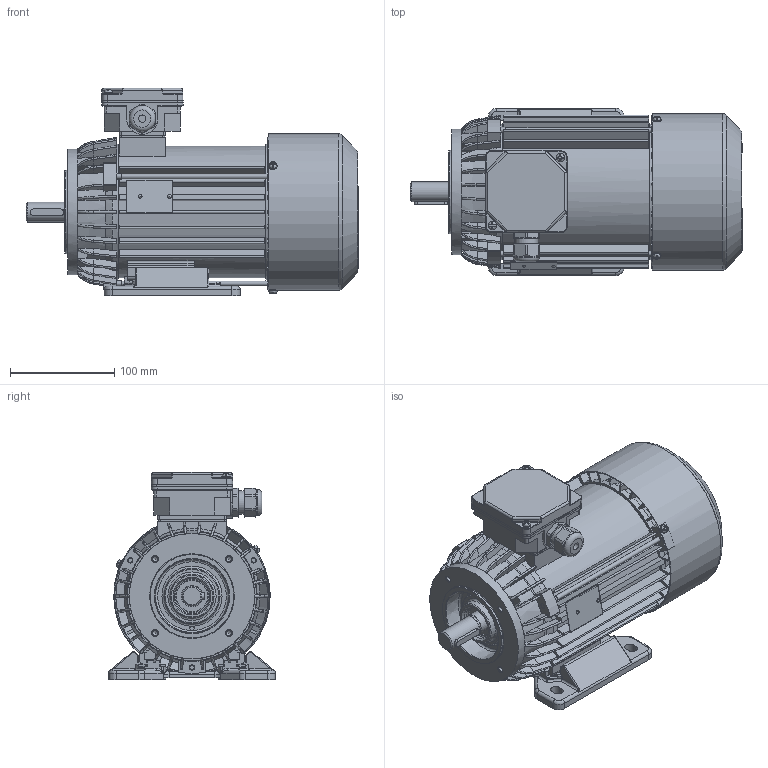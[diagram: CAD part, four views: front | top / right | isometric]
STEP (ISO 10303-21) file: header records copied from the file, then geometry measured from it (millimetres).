
FILE_DESCRIPTION( ( 'Unknown' ), '1' );
FILE_NAME( 'G:/Poczta Tk-1/STP/w.m.80/Sh80/SLh80x-.D2.stp', 'Unknown', ( 'K. Szlosek' ), ( 'BESEL S.A.' ), 'PSStep 17.0.49', 'Unknown', ' ' );
FILE_SCHEMA( ( 'AUTOMOTIVE_DESIGN { 1 0 10303 214 1 1 1 1 }' ) );
Length unit declared in the file: millimetre
Products named in the file (30): skrznka zaciskowa trójfazowa ; K4-2820 Uszczelka nr 2 Sh71,80; Dławnica M20x1,5; K2-0859 Podstawa skrzynki 6-cio zaciskowej; K2-0860 Pokrywka skrzynki zaciskowej; Assem1; K1-1257 Kadłub S(E,M)h80-C i D; Wkręt samogwintujący M4x16; Wkręt samogwintujący M4x10; K4-2320 Uszczelka nr 1 Sh71,80; Wpust A6x6x32; K2-1715 Przewietrznik; Nitokołek A 2x6; Łożysko 6204; Śruba ściągająca E_M5x168; Tabliczka znamionowa 32x44; K3-6857 Tarcza łożyskowa P S(E,M)h80-B,D; K3-2964 Osłona przewietrznika Sh80,90; K3-5645 wał S(E,M)h80-.D; K1-1261 Tarcza kołnierzowa B14_2 w.m. 80; K1-0437 Łapa Sh80-.. 
Assembly tree (45 placements, depth 3):
  Assem1
    K1-1257 Kadłub S(E,M)h80-C i D
    Wkręt samogwintujący M4x16  x2
    Wkręt samogwintujący M4x10  x3
    K4-2320 Uszczelka nr 1 Sh71,80
    Wpust A6x6x32
    K2-1715 Przewietrznik
    Nitokołek A 2x6  x2
    Łożysko 6204  x2
    Łożysko 6204  x2
    Łożysko 6204  x2
    Łożysko 6204  x2
    Łożysko 6204  x2
    Łożysko 6204  x2
    Łożysko 6204  x2
    Łożysko 6204  x2
    Łożysko 6204  x2
    Łożysko 6204  x2
    Śruba ściągająca E_M5x168  x3
    Tabliczka znamionowa 32x44
    K3-6857 Tarcza łożyskowa P S(E,M)h80-B,D
    K3-2964 Osłona przewietrznika Sh80,90
    K3-5645 wał S(E,M)h80-.D
    K1-1261 Tarcza kołnierzowa B14_2 w.m. 80
    K1-0437 Łapa Sh80-.. 
    skrznka zaciskowa trójfazowa 
      K4-2820 Uszczelka nr 2 Sh71,80
      Dławnica M20x1,5
      K2-0859 Podstawa skrzynki 6-cio zaciskowej
      K2-0860 Pokrywka skrzynki zaciskowej
Bounding box: 317.8 x 160 x 198.5 mm (x, y, z)
Volume: 1074094.5 mm3; surface area: 642932.5 mm2
Topology: 44 solids, 60 shells, 2933 faces, 8240 edges, 5307 vertices
Faces by surface type: plane 1380, cylinder 898, bspline 261, torus 197, cone 161, sphere 36
Full cylindrical faces by diameter (mm): 2 x2, 2.4 x2, 3.7 x11, 4 x7, 4.2 x3, 4.5 x1, 4.6 x3, 4.8 x4, 5 x11, 5.5 x3, 6.5 x4, 7 x1, 8 x9, 18.376 x1, 18.38 x1, 18.6 x1, 19 x1, 19.3 x1, 19.5 x2, 19.6 x2, 19.9 x1, 20 x5, 20.4 x2, 22.3 x1, 25 x1, 25.5 x1, 25.6 x1, 26 x4, 28.802 x4, 30 x1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
Entity records: 146747 total; most frequent: CARTESIAN_POINT 56172, ORIENTED_EDGE 14812, DIRECTION 13778, EDGE_CURVE 7406, AXIS2_PLACEMENT_3D 5065, VERTEX_POINT 4932, LINE 3648, VECTOR 3648
